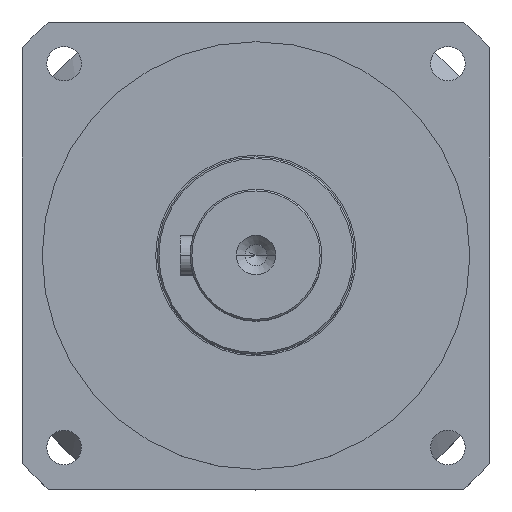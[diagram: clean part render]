
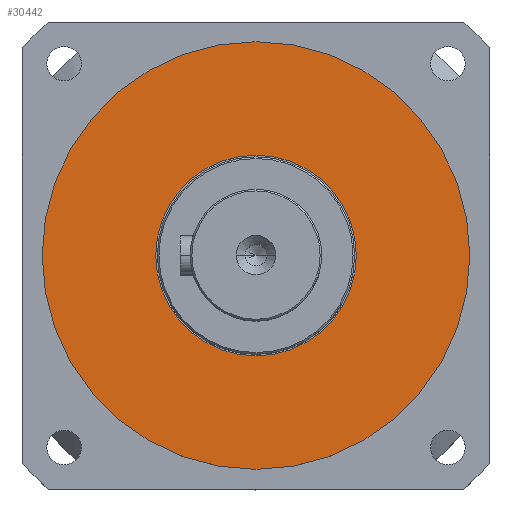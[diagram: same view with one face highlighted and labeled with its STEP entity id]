
A CAD part, top view. The second image highlights one B-rep face of the part: STEP entity #30442.
In plain terms, the highlighted planar face has unit normal (0, 0, 1).
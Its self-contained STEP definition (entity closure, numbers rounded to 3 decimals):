
#12365 = CARTESIAN_POINT ( 'NONE',  ( 30.5, 0., -71. ) ) ;
#12549 = CARTESIAN_POINT ( 'NONE',  ( 65., 0., -71. ) ) ;
#12552 = CARTESIAN_POINT ( 'NONE',  ( -65., 0., -71. ) ) ;
#12913 = CARTESIAN_POINT ( 'NONE',  ( 0., 0., -71. ) ) ;
#12948 = DIRECTION ( 'NONE',  ( 1., 0., 0. ) ) ;
#12949 = DIRECTION ( 'NONE',  ( 0., 0., 1. ) ) ;
#12950 = AXIS2_PLACEMENT_3D ( 'NONE', #12913, #12949, #12948 ) ;
#12951 = CIRCLE ( 'NONE', #12950, 65. ) ;
#12963 = AXIS2_PLACEMENT_3D ( 'NONE', #12967, #12966, #12965 ) ;
#12965 = DIRECTION ( 'NONE',  ( -1., 0., 0. ) ) ;
#12966 = DIRECTION ( 'NONE',  ( 0., 0., -1. ) ) ;
#12967 = CARTESIAN_POINT ( 'NONE',  ( 0., 0., -71. ) ) ;
#12973 = CIRCLE ( 'NONE', #12963, 30.5 ) ;
#13019 = CARTESIAN_POINT ( 'NONE',  ( -30.5, 0., -71. ) ) ;
#14836 = DIRECTION ( 'NONE',  ( 1., 0., 0. ) ) ;
#14837 = DIRECTION ( 'NONE',  ( 0., 0., 1. ) ) ;
#14838 = AXIS2_PLACEMENT_3D ( 'NONE', #14885, #14837, #14836 ) ;
#14885 = CARTESIAN_POINT ( 'NONE',  ( 0., 0., -71. ) ) ;
#14886 = PLANE ( 'NONE',  #14838 ) ;
#14887 = FACE_OUTER_BOUND ( 'NONE', #30432, .T. ) ;
#14912 = CIRCLE ( 'NONE', #15078, 30.5 ) ;
#15019 = DIRECTION ( 'NONE',  ( -1., 0., 0. ) ) ;
#15047 = FACE_BOUND ( 'NONE', #30443, .T. ) ;
#15064 = DIRECTION ( 'NONE',  ( 0., 0., -1. ) ) ;
#15065 = CARTESIAN_POINT ( 'NONE',  ( 0., 0., -71. ) ) ;
#15078 = AXIS2_PLACEMENT_3D ( 'NONE', #15065, #15064, #15019 ) ;
#16939 = DIRECTION ( 'NONE',  ( 1., 0., 0. ) ) ;
#16940 = DIRECTION ( 'NONE',  ( 0., 0., 1. ) ) ;
#16941 = AXIS2_PLACEMENT_3D ( 'NONE', #16942, #16940, #16939 ) ;
#16942 = CARTESIAN_POINT ( 'NONE',  ( 0., 0., -71. ) ) ;
#16943 = CIRCLE ( 'NONE', #16941, 65. ) ;
#29827 = VERTEX_POINT ( 'NONE', #12365 ) ;
#29835 = VERTEX_POINT ( 'NONE', #12549 ) ;
#29842 = VERTEX_POINT ( 'NONE', #12552 ) ;
#30008 = EDGE_CURVE ( 'NONE', #29835, #29842, #12951, .T. ) ;
#30018 = EDGE_CURVE ( 'NONE', #29827, #30031, #12973, .T. ) ;
#30031 = VERTEX_POINT ( 'NONE', #13019 ) ;
#30429 = ORIENTED_EDGE ( 'NONE', *, *, #30430, .T. ) ;
#30430 = EDGE_CURVE ( 'NONE', #30031, #29827, #14912, .T. ) ;
#30431 = ORIENTED_EDGE ( 'NONE', *, *, #30018, .T. ) ;
#30432 = EDGE_LOOP ( 'NONE', ( #30636, #30637 ) ) ;
#30442 = ADVANCED_FACE ( 'NONE', ( #15047, #14887 ), #14886, .T. ) ;
#30443 = EDGE_LOOP ( 'NONE', ( #30429, #30431 ) ) ;
#30636 = ORIENTED_EDGE ( 'NONE', *, *, #30008, .T. ) ;
#30637 = ORIENTED_EDGE ( 'NONE', *, *, #30638, .T. ) ;
#30638 = EDGE_CURVE ( 'NONE', #29842, #29835, #16943, .T. ) ;
